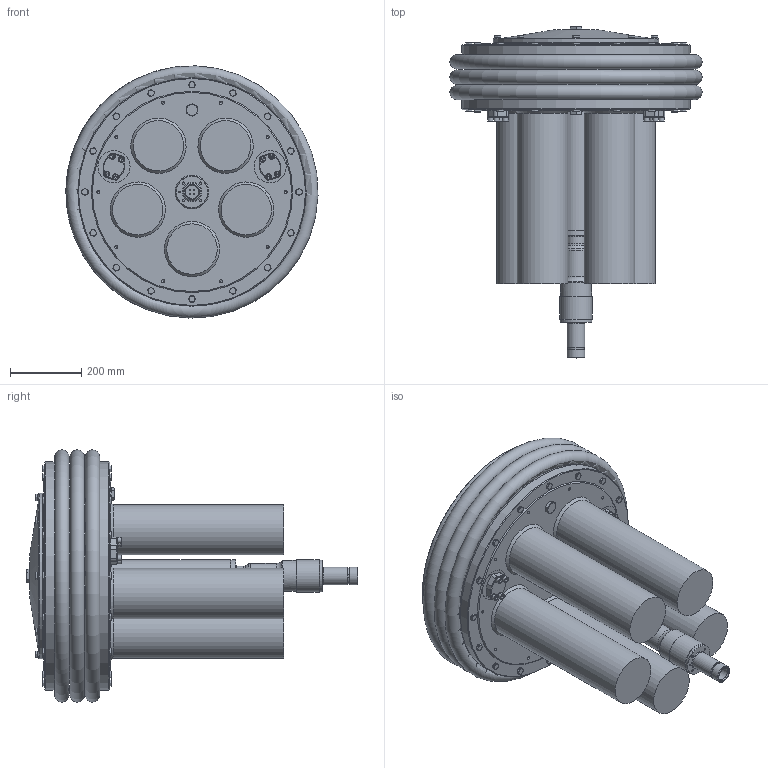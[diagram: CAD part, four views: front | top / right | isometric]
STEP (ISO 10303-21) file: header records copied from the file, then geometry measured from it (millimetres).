
FILE_DESCRIPTION(/* description */ ('Main assembly '),/* implementation_level */ '2;1');
FILE_NAME(/* name */ 'C:\Users\Mathijs\Desktop\Steps\ME-0271-1101-Empty.stp',/* time_stamp */ '2018-02-15T13:42:47+01:00',/* author */ ('Mathijs'),/* organization */ ('Seatools'),/* preprocessor_version */ 'ST-DEVELOPER v16.1',/* originating_system */ 'Autodesk Inventor 2016',/* authorisation */ '');
FILE_SCHEMA (('AUTOMOTIVE_DESIGN { 1 0 10303 214 3 1 1 }'));
Length unit declared in the file: millimetre
Products named in the file (1): ME-0271-1101-Empty
Bounding box: 706.64 x 930.5 x 706.79 mm (x, y, z)
Volume: 110238227.9 mm3; surface area: 3055581.9 mm2
Topology: 1 solids, 1 shells, 1056 faces, 2328 edges, 1440 vertices
Faces by surface type: plane 506, cone 299, cylinder 200, torus 43, sphere 8
Full cylindrical faces by diameter (mm): 3 x4, 4.917 x1, 6.5 x4, 6.647 x6, 8 x1, 8.376 x10, 9 x4, 9.188 x8, 10 x16, 10.5 x8, 11 x8, 13 x1, 15.4 x40, 16 x8, 17 x8, 29 x2, 30 x2, 36 x1, 44.201 x1, 50 x2, 55 x1, 70 x1, 87 x1, 89 x1, 90 x5, 141.3 x5, 465 x1, 640 x2
Entity records: 27297 total; most frequent: CARTESIAN_POINT 5642, DIRECTION 4236, ORIENTED_EDGE 3976, EDGE_CURVE 1988, AXIS2_PLACEMENT_3D 1761, EDGE_LOOP 1469, VERTEX_POINT 1347, STYLED_ITEM 1057
